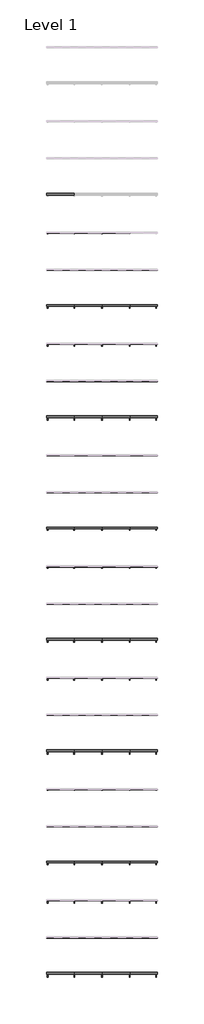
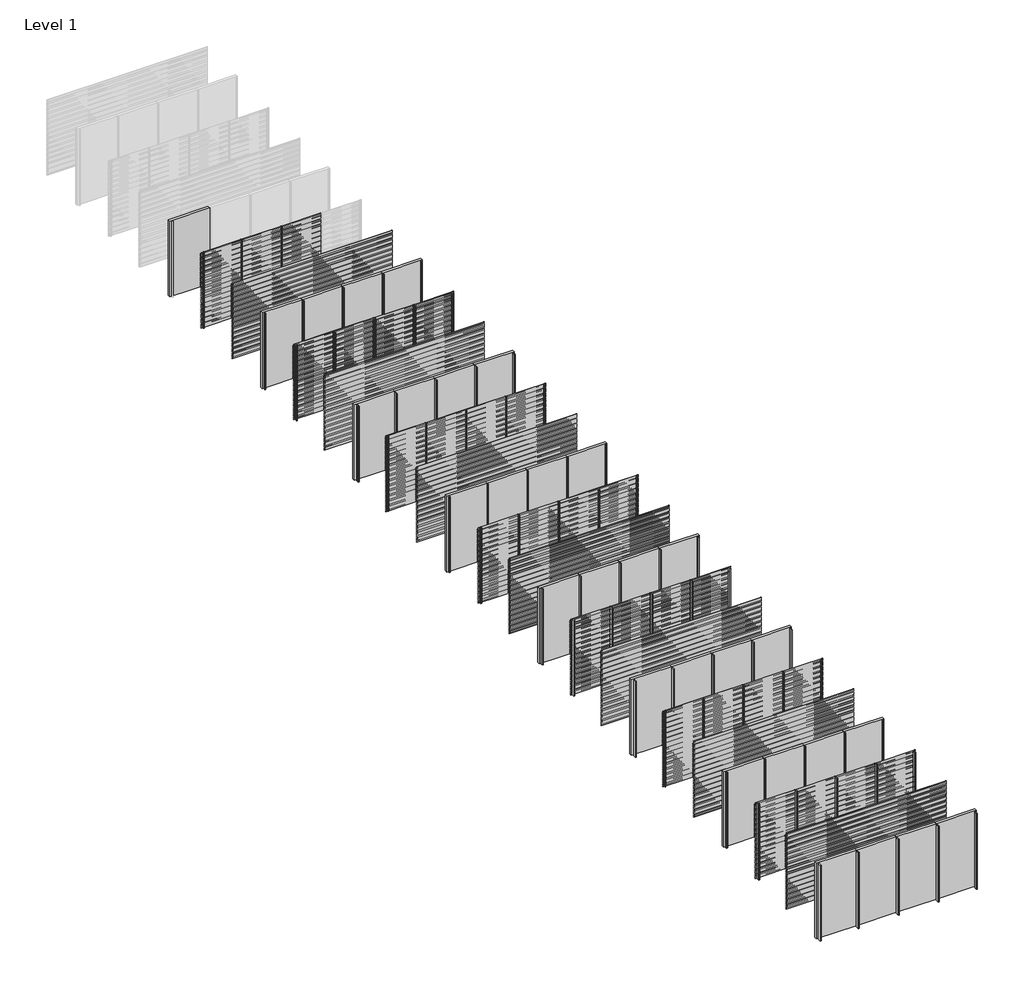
# One storey, part 1 of 25: 68 members, 63 plates.
"""IFC4 building model written with IfcOpenShell, lengths in millimetres."""

from ifc_helpers import new_model, si_unit, origin, origin_with_axes, place, context, project, spatial, polyline, outline, extrude, transform, mapped, element, save
from components import rectangular_mullion_21e3ddae, rectangular_mullion_fb497acc, rectangular_mullion_3facce28, rectangular_mullion_6cf2c509, rectangular_mullion_8b77bd57, rectangular_mullion_2c867e25, rectangular_mullion_7803f5c4, rectangular_mullion_c2c7736a, rectangular_mullion_35b0a916, rectangular_mullion_bd250e2e, rectangular_mullion_7b49c8f1, rectangular_mullion_2b84ad7e, rectangular_mullion_0fd695e7, rectangular_mullion_9b796d85, rectangular_mullion_dfb17e98, rectangular_mullion_6132f1f1, rectangular_mullion_8f153c19, rectangular_mullion_5b30f3fd, rectangular_mullion_5e0e8e0a, rectangular_mullion_d2d38772, rectangular_mullion_efb80f74, empty_system_panel_empty_413cb92e

model = new_model("IFC4")

# Units and contexts
model_context = context("Model", 3, world=origin())
ifc_project = project(units=[si_unit("LENGTHUNIT", "METRE", prefix="MILLI")], contexts=[model_context])

# Site, building, storey
site = spatial("IfcSite", under=ifc_project)
building = spatial("IfcBuilding", under=site)
storey = spatial("IfcBuildingStorey", under=building, Name="Level 1", Elevation=0.0)

# Members
placement = place(None, origin())
rectangular_mullion_shape = rectangular_mullion_21e3ddae(model_context)
element("IfcMember", 1, ObjectType="Rectangular Mullion : NLRS_21_CWM_drager LD.0460_Storax", at=placement, inside=storey, context=model_context, shape_type="MappedRepresentation", body=[
    mapped(rectangular_mullion_shape, transform((3000.0, -12000.0, 0.0), x_axis=(-1.0, 0.0, 0.0), y_axis=(0.0, 1.0, 0.0), z_axis=(0.0, 0.0, -1.0))),
])
element("IfcMember", 2, ObjectType="Rectangular Mullion : NLRS_21_CWM_drager LD.0460_Storax", at=placement, inside=storey, context=model_context, shape_type="MappedRepresentation", body=[
    mapped(rectangular_mullion_shape, transform((1500.0, -12000.0, 0.0), x_axis=(-1.0, 0.0, 0.0), y_axis=(0.0, 1.0, 0.0), z_axis=(0.0, 0.0, -1.0))),
])
element("IfcMember", 3, ObjectType="Rectangular Mullion : NLRS_21_CWM_drager LD.0460_Storax", at=placement, inside=storey, context=model_context, shape_type="MappedRepresentation", body=[
    mapped(rectangular_mullion_shape, transform((4500.0, -16000.0, 0.0), x_axis=(-1.0, 0.0, 0.0), y_axis=(0.0, 1.0, 0.0), z_axis=(0.0, 0.0, -1.0))),
])
element("IfcMember", 4, ObjectType="Rectangular Mullion : NLRS_21_CWM_drager LD.0460_Storax", at=placement, inside=storey, context=model_context, shape_type="MappedRepresentation", body=[
    mapped(rectangular_mullion_shape, transform((3000.0, -16000.0, 0.0), x_axis=(-1.0, 0.0, 0.0), y_axis=(0.0, 1.0, 0.0), z_axis=(0.0, 0.0, -1.0))),
])
element("IfcMember", 5, ObjectType="Rectangular Mullion : NLRS_21_CWM_drager LD.0460_Storax", at=placement, inside=storey, context=model_context, shape_type="MappedRepresentation", body=[
    mapped(rectangular_mullion_shape, transform((1500.0, -16000.0, 0.0), x_axis=(-1.0, 0.0, 0.0), y_axis=(0.0, 1.0, 0.0), z_axis=(0.0, 0.0, -1.0))),
])
rectangular_mullion_2_shape = rectangular_mullion_fb497acc(model_context)
element("IfcMember", 6, ObjectType="Rectangular Mullion : NLRS_21_CWM_drager LD.0995_Storax", at=placement, inside=storey, context=model_context, shape_type="MappedRepresentation", body=[
    mapped(rectangular_mullion_2_shape, transform((4500.0, -18000.0, 0.0), x_axis=(-1.0, 0.0, 0.0), y_axis=(0.0, 1.0, 0.0), z_axis=(0.0, 0.0, -1.0))),
])
element("IfcMember", 7, ObjectType="Rectangular Mullion : NLRS_21_CWM_drager LD.0995_Storax", at=placement, inside=storey, context=model_context, shape_type="MappedRepresentation", body=[
    mapped(rectangular_mullion_2_shape, transform((3000.0, -18000.0, 0.0), x_axis=(-1.0, 0.0, 0.0), y_axis=(0.0, 1.0, 0.0), z_axis=(0.0, 0.0, -1.0))),
])
element("IfcMember", 8, ObjectType="Rectangular Mullion : NLRS_21_CWM_drager LD.0995_Storax", at=placement, inside=storey, context=model_context, shape_type="MappedRepresentation", body=[
    mapped(rectangular_mullion_2_shape, transform((1500.0, -18000.0, 0.0), x_axis=(-1.0, 0.0, 0.0), y_axis=(0.0, 1.0, 0.0), z_axis=(0.0, 0.0, -1.0))),
])
element("IfcMember", 9, ObjectType="Rectangular Mullion : NLRS_21_CWM_drager LD.0995_Storax", at=placement, inside=storey, context=model_context, shape_type="MappedRepresentation", body=[
    mapped(rectangular_mullion_2_shape, transform((4500.0, -22000.0, 0.0), x_axis=(-1.0, 0.0, 0.0), y_axis=(0.0, 1.0, 0.0), z_axis=(0.0, 0.0, -1.0))),
])
element("IfcMember", 10, ObjectType="Rectangular Mullion : NLRS_21_CWM_drager LD.0995_Storax", at=placement, inside=storey, context=model_context, shape_type="MappedRepresentation", body=[
    mapped(rectangular_mullion_2_shape, transform((3000.0, -22000.0, 0.0), x_axis=(-1.0, 0.0, 0.0), y_axis=(0.0, 1.0, 0.0), z_axis=(0.0, 0.0, -1.0))),
])
element("IfcMember", 11, ObjectType="Rectangular Mullion : NLRS_21_CWM_drager LD.0995_Storax", at=placement, inside=storey, context=model_context, shape_type="MappedRepresentation", body=[
    mapped(rectangular_mullion_2_shape, transform((1500.0, -22000.0, 0.0), x_axis=(-1.0, 0.0, 0.0), y_axis=(0.0, 1.0, 0.0), z_axis=(0.0, 0.0, -1.0))),
])
rectangular_mullion_3_shape = rectangular_mullion_3facce28(model_context)
element("IfcMember", 12, ObjectType="Rectangular Mullion : NLRS_21_CWM_drager SD.014_Storax", at=placement, inside=storey, context=model_context, shape_type="MappedRepresentation", body=[
    mapped(rectangular_mullion_3_shape, transform((4500.0, -24000.0, 0.0), x_axis=(-1.0, 0.0, 0.0), y_axis=(0.0, 1.0, 0.0), z_axis=(0.0, 0.0, -1.0))),
])
element("IfcMember", 13, ObjectType="Rectangular Mullion : NLRS_21_CWM_drager SD.014_Storax", at=placement, inside=storey, context=model_context, shape_type="MappedRepresentation", body=[
    mapped(rectangular_mullion_3_shape, transform((3000.0, -24000.0, 0.0), x_axis=(-1.0, 0.0, 0.0), y_axis=(0.0, 1.0, 0.0), z_axis=(0.0, 0.0, -1.0))),
])
element("IfcMember", 14, ObjectType="Rectangular Mullion : NLRS_21_CWM_drager SD.014_Storax", at=placement, inside=storey, context=model_context, shape_type="MappedRepresentation", body=[
    mapped(rectangular_mullion_3_shape, transform((1500.0, -24000.0, 0.0), x_axis=(-1.0, 0.0, 0.0), y_axis=(0.0, 1.0, 0.0), z_axis=(0.0, 0.0, -1.0))),
])
element("IfcMember", 15, ObjectType="Rectangular Mullion : NLRS_21_CWM_drager SD.014_Storax", at=placement, inside=storey, context=model_context, shape_type="MappedRepresentation", body=[
    mapped(rectangular_mullion_3_shape, transform((4500.0, -28000.0, 0.0), x_axis=(-1.0, 0.0, 0.0), y_axis=(0.0, 1.0, 0.0), z_axis=(0.0, 0.0, -1.0))),
])
element("IfcMember", 16, ObjectType="Rectangular Mullion : NLRS_21_CWM_drager SD.014_Storax", at=placement, inside=storey, context=model_context, shape_type="MappedRepresentation", body=[
    mapped(rectangular_mullion_3_shape, transform((3000.0, -28000.0, 0.0), x_axis=(-1.0, 0.0, 0.0), y_axis=(0.0, 1.0, 0.0), z_axis=(0.0, 0.0, -1.0))),
])
element("IfcMember", 17, ObjectType="Rectangular Mullion : NLRS_21_CWM_drager SD.014_Storax", at=placement, inside=storey, context=model_context, shape_type="MappedRepresentation", body=[
    mapped(rectangular_mullion_3_shape, transform((1500.0, -28000.0, 0.0), x_axis=(-1.0, 0.0, 0.0), y_axis=(0.0, 1.0, 0.0), z_axis=(0.0, 0.0, -1.0))),
])
rectangular_mullion_4_shape = rectangular_mullion_6cf2c509(model_context)
element("IfcMember", 18, ObjectType="Rectangular Mullion : NLRS_21_CWM_drager SD.054_Storax", at=placement, inside=storey, context=model_context, shape_type="MappedRepresentation", body=[
    mapped(rectangular_mullion_4_shape, transform((4500.0, -30000.0, 0.0), x_axis=(-1.0, 0.0, 0.0), y_axis=(0.0, 1.0, 0.0), z_axis=(0.0, 0.0, -1.0))),
])
element("IfcMember", 19, ObjectType="Rectangular Mullion : NLRS_21_CWM_drager SD.054_Storax", at=placement, inside=storey, context=model_context, shape_type="MappedRepresentation", body=[
    mapped(rectangular_mullion_4_shape, transform((3000.0, -30000.0, 0.0), x_axis=(-1.0, 0.0, 0.0), y_axis=(0.0, 1.0, 0.0), z_axis=(0.0, 0.0, -1.0))),
])
element("IfcMember", 20, ObjectType="Rectangular Mullion : NLRS_21_CWM_drager SD.054_Storax", at=placement, inside=storey, context=model_context, shape_type="MappedRepresentation", body=[
    mapped(rectangular_mullion_4_shape, transform((1500.0, -30000.0, 0.0), x_axis=(-1.0, 0.0, 0.0), y_axis=(0.0, 1.0, 0.0), z_axis=(0.0, 0.0, -1.0))),
])
element("IfcMember", 21, ObjectType="Rectangular Mullion : NLRS_21_CWM_drager SD.054_Storax", at=placement, inside=storey, context=model_context, shape_type="MappedRepresentation", body=[
    mapped(rectangular_mullion_4_shape, transform((4500.0, -34000.0, 0.0), x_axis=(-1.0, 0.0, 0.0), y_axis=(0.0, 1.0, 0.0), z_axis=(0.0, 0.0, -1.0))),
])
element("IfcMember", 22, ObjectType="Rectangular Mullion : NLRS_21_CWM_drager SD.054_Storax", at=placement, inside=storey, context=model_context, shape_type="MappedRepresentation", body=[
    mapped(rectangular_mullion_4_shape, transform((3000.0, -34000.0, 0.0), x_axis=(-1.0, 0.0, 0.0), y_axis=(0.0, 1.0, 0.0), z_axis=(0.0, 0.0, -1.0))),
])
element("IfcMember", 23, ObjectType="Rectangular Mullion : NLRS_21_CWM_drager SD.054_Storax", at=placement, inside=storey, context=model_context, shape_type="MappedRepresentation", body=[
    mapped(rectangular_mullion_4_shape, transform((1500.0, -34000.0, 0.0), x_axis=(-1.0, 0.0, 0.0), y_axis=(0.0, 1.0, 0.0), z_axis=(0.0, 0.0, -1.0))),
])
rectangular_mullion_5_shape = rectangular_mullion_8b77bd57(model_context)
element("IfcMember", 24, ObjectType="Rectangular Mullion : NLRS_21_CWM_drager SD.100_Storax", at=placement, inside=storey, context=model_context, shape_type="MappedRepresentation", body=[
    mapped(rectangular_mullion_5_shape, transform((4500.0, -36000.0, 0.0), x_axis=(-1.0, 0.0, 0.0), y_axis=(0.0, 1.0, 0.0), z_axis=(0.0, 0.0, -1.0))),
])
element("IfcMember", 25, ObjectType="Rectangular Mullion : NLRS_21_CWM_drager SD.100_Storax", at=placement, inside=storey, context=model_context, shape_type="MappedRepresentation", body=[
    mapped(rectangular_mullion_5_shape, transform((3000.0, -36000.0, 0.0), x_axis=(-1.0, 0.0, 0.0), y_axis=(0.0, 1.0, 0.0), z_axis=(0.0, 0.0, -1.0))),
])
element("IfcMember", 26, ObjectType="Rectangular Mullion : NLRS_21_CWM_drager SD.100_Storax", at=placement, inside=storey, context=model_context, shape_type="MappedRepresentation", body=[
    mapped(rectangular_mullion_5_shape, transform((1500.0, -36000.0, 0.0), x_axis=(-1.0, 0.0, 0.0), y_axis=(0.0, 1.0, 0.0), z_axis=(0.0, 0.0, -1.0))),
])
element("IfcMember", 27, ObjectType="Rectangular Mullion : NLRS_21_CWM_drager SD.100_Storax", at=placement, inside=storey, context=model_context, shape_type="MappedRepresentation", body=[
    mapped(rectangular_mullion_5_shape, transform((4500.0, -40000.0, 0.0), x_axis=(-1.0, 0.0, 0.0), y_axis=(0.0, 1.0, 0.0), z_axis=(0.0, 0.0, -1.0))),
])
element("IfcMember", 28, ObjectType="Rectangular Mullion : NLRS_21_CWM_drager SD.100_Storax", at=placement, inside=storey, context=model_context, shape_type="MappedRepresentation", body=[
    mapped(rectangular_mullion_5_shape, transform((3000.0, -40000.0, 0.0), x_axis=(-1.0, 0.0, 0.0), y_axis=(0.0, 1.0, 0.0), z_axis=(0.0, 0.0, -1.0))),
])
element("IfcMember", 29, ObjectType="Rectangular Mullion : NLRS_21_CWM_drager SD.100_Storax", at=placement, inside=storey, context=model_context, shape_type="MappedRepresentation", body=[
    mapped(rectangular_mullion_5_shape, transform((1500.0, -40000.0, 0.0), x_axis=(-1.0, 0.0, 0.0), y_axis=(0.0, 1.0, 0.0), z_axis=(0.0, 0.0, -1.0))),
])
rectangular_mullion_6_shape = rectangular_mullion_2c867e25(model_context)
element("IfcMember", 30, ObjectType="Rectangular Mullion : NLRS_21_CWM_drager LD.0440_Storax", at=placement, inside=storey, context=model_context, shape_type="MappedRepresentation", body=[
    mapped(rectangular_mullion_6_shape, transform((4500.0, -42000.0, 0.0), x_axis=(-1.0, 0.0, 0.0), y_axis=(0.0, 1.0, 0.0), z_axis=(0.0, 0.0, -1.0))),
])
element("IfcMember", 31, ObjectType="Rectangular Mullion : NLRS_21_CWM_drager LD.0440_Storax", at=placement, inside=storey, context=model_context, shape_type="MappedRepresentation", body=[
    mapped(rectangular_mullion_6_shape, transform((3000.0, -42000.0, 0.0), x_axis=(-1.0, 0.0, 0.0), y_axis=(0.0, 1.0, 0.0), z_axis=(0.0, 0.0, -1.0))),
])
element("IfcMember", 32, ObjectType="Rectangular Mullion : NLRS_21_CWM_drager LD.0440_Storax", at=placement, inside=storey, context=model_context, shape_type="MappedRepresentation", body=[
    mapped(rectangular_mullion_6_shape, transform((1500.0, -42000.0, 0.0), x_axis=(-1.0, 0.0, 0.0), y_axis=(0.0, 1.0, 0.0), z_axis=(0.0, 0.0, -1.0))),
])
element("IfcMember", 33, ObjectType="Rectangular Mullion : NLRS_21_CWM_drager LD.0440_Storax", at=placement, inside=storey, context=model_context, shape_type="MappedRepresentation", body=[
    mapped(rectangular_mullion_6_shape, transform((4500.0, -46000.0, 0.0), x_axis=(-1.0, 0.0, 0.0), y_axis=(0.0, 1.0, 0.0), z_axis=(0.0, 0.0, -1.0))),
])
element("IfcMember", 34, ObjectType="Rectangular Mullion : NLRS_21_CWM_drager LD.0440_Storax", at=placement, inside=storey, context=model_context, shape_type="MappedRepresentation", body=[
    mapped(rectangular_mullion_6_shape, transform((3000.0, -46000.0, 0.0), x_axis=(-1.0, 0.0, 0.0), y_axis=(0.0, 1.0, 0.0), z_axis=(0.0, 0.0, -1.0))),
])
element("IfcMember", 35, ObjectType="Rectangular Mullion : NLRS_21_CWM_drager LD.0440_Storax", at=placement, inside=storey, context=model_context, shape_type="MappedRepresentation", body=[
    mapped(rectangular_mullion_6_shape, transform((1500.0, -46000.0, 0.0), x_axis=(-1.0, 0.0, 0.0), y_axis=(0.0, 1.0, 0.0), z_axis=(0.0, 0.0, -1.0))),
])
rectangular_mullion_7_shape = rectangular_mullion_7803f5c4(model_context)
element("IfcMember", 36, ObjectType="Rectangular Mullion : NLRS_21_CWM_drager LD.1250_Storax", at=placement, inside=storey, context=model_context, shape_type="MappedRepresentation", body=[
    mapped(rectangular_mullion_7_shape, transform((4500.0, -48000.0, 0.0), x_axis=(-1.0, 0.0, 0.0), y_axis=(0.0, 1.0, 0.0), z_axis=(0.0, 0.0, -1.0))),
])
element("IfcMember", 37, ObjectType="Rectangular Mullion : NLRS_21_CWM_drager LD.1250_Storax", at=placement, inside=storey, context=model_context, shape_type="MappedRepresentation", body=[
    mapped(rectangular_mullion_7_shape, transform((3000.0, -48000.0, 0.0), x_axis=(-1.0, 0.0, 0.0), y_axis=(0.0, 1.0, 0.0), z_axis=(0.0, 0.0, -1.0))),
])
element("IfcMember", 38, ObjectType="Rectangular Mullion : NLRS_21_CWM_drager LD.1250_Storax", at=placement, inside=storey, context=model_context, shape_type="MappedRepresentation", body=[
    mapped(rectangular_mullion_7_shape, transform((1500.0, -48000.0, 0.0), x_axis=(-1.0, 0.0, 0.0), y_axis=(0.0, 1.0, 0.0), z_axis=(0.0, 0.0, -1.0))),
])
element("IfcMember", 39, ObjectType="Rectangular Mullion : NLRS_21_CWM_drager LD.1250_Storax", at=placement, inside=storey, context=model_context, shape_type="MappedRepresentation", body=[
    mapped(rectangular_mullion_7_shape, transform((4500.0, -52000.0, 0.0), x_axis=(-1.0, 0.0, 0.0), y_axis=(0.0, 1.0, 0.0), z_axis=(0.0, 0.0, -1.0))),
])
element("IfcMember", 40, ObjectType="Rectangular Mullion : NLRS_21_CWM_drager LD.1250_Storax", at=placement, inside=storey, context=model_context, shape_type="MappedRepresentation", body=[
    mapped(rectangular_mullion_7_shape, transform((3000.0, -52000.0, 0.0), x_axis=(-1.0, 0.0, 0.0), y_axis=(0.0, 1.0, 0.0), z_axis=(0.0, 0.0, -1.0))),
])
element("IfcMember", 41, ObjectType="Rectangular Mullion : NLRS_21_CWM_drager LD.1250_Storax", at=placement, inside=storey, context=model_context, shape_type="MappedRepresentation", body=[
    mapped(rectangular_mullion_7_shape, transform((1500.0, -52000.0, 0.0), x_axis=(-1.0, 0.0, 0.0), y_axis=(0.0, 1.0, 0.0), z_axis=(0.0, 0.0, -1.0))),
])
rectangular_mullion_8_shape = rectangular_mullion_c2c7736a(model_context)
element("IfcMember", 42, ObjectType="Rectangular Mullion : NLRS_21_CWM_drager LD.0460 - links_Storax", at=placement, inside=storey, context=model_context, shape_type="MappedRepresentation", body=[
    mapped(rectangular_mullion_8_shape, transform((0.0, -12000.0, 0.0), x_axis=(-1.0, 0.0, 0.0), y_axis=(0.0, 1.0, 0.0), z_axis=(0.0, 0.0, -1.0))),
])
element("IfcMember", 43, ObjectType="Rectangular Mullion : NLRS_21_CWM_drager LD.0460 - links_Storax", at=placement, inside=storey, context=model_context, shape_type="MappedRepresentation", body=[
    mapped(rectangular_mullion_8_shape, transform((0.0, -16000.0, 0.0), x_axis=(-1.0, 0.0, 0.0), y_axis=(0.0, 1.0, 0.0), z_axis=(0.0, 0.0, -1.0))),
])
rectangular_mullion_9_shape = rectangular_mullion_35b0a916(model_context)
element("IfcMember", 44, ObjectType="Rectangular Mullion : NLRS_21_CWM_drager LD.0460 - rechts_Storax", at=placement, inside=storey, context=model_context, shape_type="MappedRepresentation", body=[
    mapped(rectangular_mullion_9_shape, transform((6000.0, -16000.0, 3000.0), x_axis=(1.0, 0.0, 0.0), y_axis=(0.0, 1.0, 0.0), z_axis=(0.0, 0.0, 1.0))),
])
rectangular_mullion_10_shape = rectangular_mullion_bd250e2e(model_context)
element("IfcMember", 45, ObjectType="Rectangular Mullion : NLRS_21_CWM_drager LD.0995 - links_Storax", at=placement, inside=storey, context=model_context, shape_type="MappedRepresentation", body=[
    mapped(rectangular_mullion_10_shape, transform((0.0, -18000.0, 0.0), x_axis=(-1.0, 0.0, 0.0), y_axis=(0.0, 1.0, 0.0), z_axis=(0.0, 0.0, -1.0))),
])
element("IfcMember", 46, ObjectType="Rectangular Mullion : NLRS_21_CWM_drager LD.0995 - links_Storax", at=placement, inside=storey, context=model_context, shape_type="MappedRepresentation", body=[
    mapped(rectangular_mullion_10_shape, transform((0.0, -22000.0, 0.0), x_axis=(-1.0, 0.0, 0.0), y_axis=(0.0, 1.0, 0.0), z_axis=(0.0, 0.0, -1.0))),
])
rectangular_mullion_11_shape = rectangular_mullion_7b49c8f1(model_context)
element("IfcMember", 47, ObjectType="Rectangular Mullion : NLRS_21_CWM_drager LD.0995 - rechts_Storax", at=placement, inside=storey, context=model_context, shape_type="MappedRepresentation", body=[
    mapped(rectangular_mullion_11_shape, transform((6000.0, -18000.0, 3000.0), x_axis=(1.0, 0.0, 0.0), y_axis=(0.0, 1.0, 0.0), z_axis=(0.0, 0.0, 1.0))),
])
element("IfcMember", 48, ObjectType="Rectangular Mullion : NLRS_21_CWM_drager LD.0995 - rechts_Storax", at=placement, inside=storey, context=model_context, shape_type="MappedRepresentation", body=[
    mapped(rectangular_mullion_11_shape, transform((6000.0, -22000.0, 3000.0), x_axis=(1.0, 0.0, 0.0), y_axis=(0.0, 1.0, 0.0), z_axis=(0.0, 0.0, 1.0))),
])
rectangular_mullion_12_shape = rectangular_mullion_2b84ad7e(model_context)
element("IfcMember", 49, ObjectType="Rectangular Mullion : NLRS_21_CWM_drager SD.014 - links_Storax", at=placement, inside=storey, context=model_context, shape_type="MappedRepresentation", body=[
    mapped(rectangular_mullion_12_shape, transform((0.0, -24000.0, 0.0), x_axis=(-1.0, 0.0, 0.0), y_axis=(0.0, 1.0, 0.0), z_axis=(0.0, 0.0, -1.0))),
])
element("IfcMember", 50, ObjectType="Rectangular Mullion : NLRS_21_CWM_drager SD.014 - links_Storax", at=placement, inside=storey, context=model_context, shape_type="MappedRepresentation", body=[
    mapped(rectangular_mullion_12_shape, transform((0.0, -28000.0, 0.0), x_axis=(-1.0, 0.0, 0.0), y_axis=(0.0, 1.0, 0.0), z_axis=(0.0, 0.0, -1.0))),
])
rectangular_mullion_13_shape = rectangular_mullion_0fd695e7(model_context)
element("IfcMember", 51, ObjectType="Rectangular Mullion : NLRS_21_CWM_drager SD.014 - rechts_Storax", at=placement, inside=storey, context=model_context, shape_type="MappedRepresentation", body=[
    mapped(rectangular_mullion_13_shape, transform((6000.0, -24000.0, 3000.0), x_axis=(1.0, 0.0, 0.0), y_axis=(0.0, 1.0, 0.0), z_axis=(0.0, 0.0, 1.0))),
])
element("IfcMember", 52, ObjectType="Rectangular Mullion : NLRS_21_CWM_drager SD.014 - rechts_Storax", at=placement, inside=storey, context=model_context, shape_type="MappedRepresentation", body=[
    mapped(rectangular_mullion_13_shape, transform((6000.0, -28000.0, 3000.0), x_axis=(1.0, 0.0, 0.0), y_axis=(0.0, 1.0, 0.0), z_axis=(0.0, 0.0, 1.0))),
])
rectangular_mullion_14_shape = rectangular_mullion_9b796d85(model_context)
element("IfcMember", 53, ObjectType="Rectangular Mullion : NLRS_21_CWM_drager SD.054 - links_Storax", at=placement, inside=storey, context=model_context, shape_type="MappedRepresentation", body=[
    mapped(rectangular_mullion_14_shape, transform((0.0, -30000.0, 0.0), x_axis=(-1.0, 0.0, 0.0), y_axis=(0.0, 1.0, 0.0), z_axis=(0.0, 0.0, -1.0))),
])
element("IfcMember", 54, ObjectType="Rectangular Mullion : NLRS_21_CWM_drager SD.054 - links_Storax", at=placement, inside=storey, context=model_context, shape_type="MappedRepresentation", body=[
    mapped(rectangular_mullion_14_shape, transform((0.0, -34000.0, 0.0), x_axis=(-1.0, 0.0, 0.0), y_axis=(0.0, 1.0, 0.0), z_axis=(0.0, 0.0, -1.0))),
])
rectangular_mullion_15_shape = rectangular_mullion_dfb17e98(model_context)
element("IfcMember", 55, ObjectType="Rectangular Mullion : NLRS_21_CWM_drager SD.054 - rechts_Storax", at=placement, inside=storey, context=model_context, shape_type="MappedRepresentation", body=[
    mapped(rectangular_mullion_15_shape, transform((6000.0, -30000.0, 3000.0), x_axis=(1.0, 0.0, 0.0), y_axis=(0.0, 1.0, 0.0), z_axis=(0.0, 0.0, 1.0))),
])
element("IfcMember", 56, ObjectType="Rectangular Mullion : NLRS_21_CWM_drager SD.054 - rechts_Storax", at=placement, inside=storey, context=model_context, shape_type="MappedRepresentation", body=[
    mapped(rectangular_mullion_15_shape, transform((6000.0, -34000.0, 3000.0), x_axis=(1.0, 0.0, 0.0), y_axis=(0.0, 1.0, 0.0), z_axis=(0.0, 0.0, 1.0))),
])
rectangular_mullion_16_shape = rectangular_mullion_6132f1f1(model_context)
element("IfcMember", 57, ObjectType="Rectangular Mullion : NLRS_21_CWM_drager SD.100 - links_Storax", at=placement, inside=storey, context=model_context, shape_type="MappedRepresentation", body=[
    mapped(rectangular_mullion_16_shape, transform((0.0, -36000.0, 0.0), x_axis=(-1.0, 0.0, 0.0), y_axis=(0.0, 1.0, 0.0), z_axis=(0.0, 0.0, -1.0))),
])
element("IfcMember", 58, ObjectType="Rectangular Mullion : NLRS_21_CWM_drager SD.100 - links_Storax", at=placement, inside=storey, context=model_context, shape_type="MappedRepresentation", body=[
    mapped(rectangular_mullion_16_shape, transform((0.0, -40000.0, 0.0), x_axis=(-1.0, 0.0, 0.0), y_axis=(0.0, 1.0, 0.0), z_axis=(0.0, 0.0, -1.0))),
])
rectangular_mullion_17_shape = rectangular_mullion_8f153c19(model_context)
element("IfcMember", 59, ObjectType="Rectangular Mullion : NLRS_21_CWM_drager SD.100 - rechts_Storax", at=placement, inside=storey, context=model_context, shape_type="MappedRepresentation", body=[
    mapped(rectangular_mullion_17_shape, transform((6000.0, -36000.0, 3000.0), x_axis=(1.0, 0.0, 0.0), y_axis=(0.0, 1.0, 0.0), z_axis=(0.0, 0.0, 1.0))),
])
element("IfcMember", 60, ObjectType="Rectangular Mullion : NLRS_21_CWM_drager SD.100 - rechts_Storax", at=placement, inside=storey, context=model_context, shape_type="MappedRepresentation", body=[
    mapped(rectangular_mullion_17_shape, transform((6000.0, -40000.0, 3000.0), x_axis=(1.0, 0.0, 0.0), y_axis=(0.0, 1.0, 0.0), z_axis=(0.0, 0.0, 1.0))),
])
rectangular_mullion_18_shape = rectangular_mullion_5b30f3fd(model_context)
element("IfcMember", 61, ObjectType="Rectangular Mullion : NLRS_21_CWM_drager LD.0440 - links_Storax", at=placement, inside=storey, context=model_context, shape_type="MappedRepresentation", body=[
    mapped(rectangular_mullion_18_shape, transform((0.0, -42000.0, 0.0), x_axis=(-1.0, 0.0, 0.0), y_axis=(0.0, 1.0, 0.0), z_axis=(0.0, 0.0, -1.0))),
])
element("IfcMember", 62, ObjectType="Rectangular Mullion : NLRS_21_CWM_drager LD.0440 - links_Storax", at=placement, inside=storey, context=model_context, shape_type="MappedRepresentation", body=[
    mapped(rectangular_mullion_18_shape, transform((0.0, -46000.0, 0.0), x_axis=(-1.0, 0.0, 0.0), y_axis=(0.0, 1.0, 0.0), z_axis=(0.0, 0.0, -1.0))),
])
rectangular_mullion_19_shape = rectangular_mullion_5e0e8e0a(model_context)
element("IfcMember", 63, ObjectType="Rectangular Mullion : NLRS_21_CWM_drager LD.0440 - rechts_Storax", at=placement, inside=storey, context=model_context, shape_type="MappedRepresentation", body=[
    mapped(rectangular_mullion_19_shape, transform((6000.0, -42000.0, 3000.0), x_axis=(1.0, 0.0, 0.0), y_axis=(0.0, 1.0, 0.0), z_axis=(0.0, 0.0, 1.0))),
])
element("IfcMember", 64, ObjectType="Rectangular Mullion : NLRS_21_CWM_drager LD.0440 - rechts_Storax", at=placement, inside=storey, context=model_context, shape_type="MappedRepresentation", body=[
    mapped(rectangular_mullion_19_shape, transform((6000.0, -46000.0, 3000.0), x_axis=(1.0, 0.0, 0.0), y_axis=(0.0, 1.0, 0.0), z_axis=(0.0, 0.0, 1.0))),
])
rectangular_mullion_20_shape = rectangular_mullion_d2d38772(model_context)
element("IfcMember", 65, ObjectType="Rectangular Mullion : NLRS_21_CWM_drager LD.1250 - links_Storax", at=placement, inside=storey, context=model_context, shape_type="MappedRepresentation", body=[
    mapped(rectangular_mullion_20_shape, transform((0.0, -48000.0, 0.0), x_axis=(-1.0, 0.0, 0.0), y_axis=(0.0, 1.0, 0.0), z_axis=(0.0, 0.0, -1.0))),
])
element("IfcMember", 66, ObjectType="Rectangular Mullion : NLRS_21_CWM_drager LD.1250 - links_Storax", at=placement, inside=storey, context=model_context, shape_type="MappedRepresentation", body=[
    mapped(rectangular_mullion_20_shape, transform((0.0, -52000.0, 0.0), x_axis=(-1.0, 0.0, 0.0), y_axis=(0.0, 1.0, 0.0), z_axis=(0.0, 0.0, -1.0))),
])
rectangular_mullion_21_shape = rectangular_mullion_efb80f74(model_context)
element("IfcMember", 67, ObjectType="Rectangular Mullion : NLRS_21_CWM_drager LD.1250 - rechts_Storax", at=placement, inside=storey, context=model_context, shape_type="MappedRepresentation", body=[
    mapped(rectangular_mullion_21_shape, transform((6000.0, -48000.0, 3000.0), x_axis=(1.0, 0.0, 0.0), y_axis=(0.0, 1.0, 0.0), z_axis=(0.0, 0.0, 1.0))),
])
element("IfcMember", 68, ObjectType="Rectangular Mullion : NLRS_21_CWM_drager LD.1250 - rechts_Storax", at=placement, inside=storey, context=model_context, shape_type="MappedRepresentation", body=[
    mapped(rectangular_mullion_21_shape, transform((6000.0, -52000.0, 3000.0), x_axis=(1.0, 0.0, 0.0), y_axis=(0.0, 1.0, 0.0), z_axis=(0.0, 0.0, 1.0))),
])

# Plates
element("IfcPlate", 69, ObjectType="NLRS_21_WA_lamellenwand Linius - L.066.01_Storax", at=placement, inside=storey, context=model_context, shape_type="SweptSolid", body=[
    extrude(outline(polyline([(0.0, -11999.0), (1500.0, -11999.0), (1500.0, -12001.0), (0.0, -12001.0), (0.0, -11999.0)])), origin_with_axes(), (0.0, 0.0, 1.0), 3000.0),
])
element("IfcPlate", 70, ObjectType="NLRS_21_WA_lamellenwand Linius - L.066.01_Storax", at=placement, inside=storey, context=model_context, shape_type="SweptSolid", body=[
    extrude(outline(polyline([(1500.0, -11999.0), (3000.0, -11999.0), (3000.0, -12001.0), (1500.0, -12001.0), (1500.0, -11999.0)])), origin_with_axes(), (0.0, 0.0, 1.0), 3000.0),
])
element("IfcPlate", 71, ObjectType="NLRS_21_WA_lamellenwand Linius - L.066.01_Storax", at=placement, inside=storey, context=model_context, shape_type="SweptSolid", body=[
    extrude(outline(polyline([(3000.0, -11999.0), (4500.0, -11999.0), (4500.0, -12001.0), (3000.0, -12001.0), (3000.0, -11999.0)])), origin_with_axes(), (0.0, 0.0, 1.0), 3000.0),
])
element("IfcPlate", 72, ObjectType="NLRS_21_WA_lamellenwand Linius - L.066.01_Storax", at=placement, inside=storey, context=model_context, shape_type="SweptSolid", body=[
    extrude(outline(polyline([(0.0, -13999.0), (6000.0, -13999.0), (6000.0, -14001.0), (0.0, -14001.0), (0.0, -13999.0)])), origin_with_axes(), (0.0, 0.0, 1.0), 3000.0),
])
element("IfcPlate", 73, ObjectType="NLRS_21_WA_lamellenwand Linius - L.066.01_Storax", at=placement, inside=storey, context=model_context, shape_type="SweptSolid", body=[
    extrude(outline(polyline([(0.0, -17999.0), (1500.0, -17999.0), (1500.0, -18001.0), (0.0, -18001.0), (0.0, -17999.0)])), origin_with_axes(), (0.0, 0.0, 1.0), 3000.0),
])
element("IfcPlate", 74, ObjectType="NLRS_21_WA_lamellenwand Linius - L.066.01_Storax", at=placement, inside=storey, context=model_context, shape_type="SweptSolid", body=[
    extrude(outline(polyline([(1500.0, -17999.0), (3000.0, -17999.0), (3000.0, -18001.0), (1500.0, -18001.0), (1500.0, -17999.0)])), origin_with_axes(), (0.0, 0.0, 1.0), 3000.0),
])
element("IfcPlate", 75, ObjectType="NLRS_21_WA_lamellenwand Linius - L.066.01_Storax", at=placement, inside=storey, context=model_context, shape_type="SweptSolid", body=[
    extrude(outline(polyline([(3000.0, -17999.0), (4500.0, -17999.0), (4500.0, -18001.0), (3000.0, -18001.0), (3000.0, -17999.0)])), origin_with_axes(), (0.0, 0.0, 1.0), 3000.0),
])
element("IfcPlate", 76, ObjectType="NLRS_21_WA_lamellenwand Linius - L.066.01_Storax", at=placement, inside=storey, context=model_context, shape_type="SweptSolid", body=[
    extrude(outline(polyline([(4500.0, -17999.0), (6000.0, -17999.0), (6000.0, -18001.0), (4500.0, -18001.0), (4500.0, -17999.0)])), origin_with_axes(), (0.0, 0.0, 1.0), 3000.0),
])
element("IfcPlate", 77, ObjectType="NLRS_21_WA_lamellenwand Linius - L.066.01_Storax", at=placement, inside=storey, context=model_context, shape_type="SweptSolid", body=[
    extrude(outline(polyline([(0.0, -19999.0), (6000.0, -19999.0), (6000.0, -20001.0), (0.0, -20001.0), (0.0, -19999.0)])), origin_with_axes(), (0.0, 0.0, 1.0), 3000.0),
])
element("IfcPlate", 78, ObjectType="NLRS_21_WA_lamellenwand Linius - L.066.01_Storax", at=placement, inside=storey, context=model_context, shape_type="SweptSolid", body=[
    extrude(outline(polyline([(0.0, -23999.0), (1500.0, -23999.0), (1500.0, -24001.0), (0.0, -24001.0), (0.0, -23999.0)])), origin_with_axes(), (0.0, 0.0, 1.0), 3000.0),
])
element("IfcPlate", 79, ObjectType="NLRS_21_WA_lamellenwand Linius - L.066.01_Storax", at=placement, inside=storey, context=model_context, shape_type="SweptSolid", body=[
    extrude(outline(polyline([(1500.0, -23999.0), (3000.0, -23999.0), (3000.0, -24001.0), (1500.0, -24001.0), (1500.0, -23999.0)])), origin_with_axes(), (0.0, 0.0, 1.0), 3000.0),
])
element("IfcPlate", 80, ObjectType="NLRS_21_WA_lamellenwand Linius - L.066.01_Storax", at=placement, inside=storey, context=model_context, shape_type="SweptSolid", body=[
    extrude(outline(polyline([(3000.0, -23999.0), (4500.0, -23999.0), (4500.0, -24001.0), (3000.0, -24001.0), (3000.0, -23999.0)])), origin_with_axes(), (0.0, 0.0, 1.0), 3000.0),
])
element("IfcPlate", 81, ObjectType="NLRS_21_WA_lamellenwand Linius - L.066.01_Storax", at=placement, inside=storey, context=model_context, shape_type="SweptSolid", body=[
    extrude(outline(polyline([(4500.0, -23999.0), (6000.0, -23999.0), (6000.0, -24001.0), (4500.0, -24001.0), (4500.0, -23999.0)])), origin_with_axes(), (0.0, 0.0, 1.0), 3000.0),
])
element("IfcPlate", 82, ObjectType="NLRS_21_WA_lamellenwand Linius - L.066.01_Storax", at=placement, inside=storey, context=model_context, shape_type="SweptSolid", body=[
    extrude(outline(polyline([(0.0, -25999.0), (6000.0, -25999.0), (6000.0, -26001.0), (0.0, -26001.0), (0.0, -25999.0)])), origin_with_axes(), (0.0, 0.0, 1.0), 3000.0),
])
element("IfcPlate", 83, ObjectType="NLRS_21_WA_lamellenwand Linius - L.066.01_Storax", at=placement, inside=storey, context=model_context, shape_type="SweptSolid", body=[
    extrude(outline(polyline([(0.0, -29999.0), (1500.0, -29999.0), (1500.0, -30001.0), (0.0, -30001.0), (0.0, -29999.0)])), origin_with_axes(), (0.0, 0.0, 1.0), 3000.0),
])
element("IfcPlate", 84, ObjectType="NLRS_21_WA_lamellenwand Linius - L.066.01_Storax", at=placement, inside=storey, context=model_context, shape_type="SweptSolid", body=[
    extrude(outline(polyline([(1500.0, -29999.0), (3000.0, -29999.0), (3000.0, -30001.0), (1500.0, -30001.0), (1500.0, -29999.0)])), origin_with_axes(), (0.0, 0.0, 1.0), 3000.0),
])
element("IfcPlate", 85, ObjectType="NLRS_21_WA_lamellenwand Linius - L.066.01_Storax", at=placement, inside=storey, context=model_context, shape_type="SweptSolid", body=[
    extrude(outline(polyline([(3000.0, -29999.0), (4500.0, -29999.0), (4500.0, -30001.0), (3000.0, -30001.0), (3000.0, -29999.0)])), origin_with_axes(), (0.0, 0.0, 1.0), 3000.0),
])
element("IfcPlate", 86, ObjectType="NLRS_21_WA_lamellenwand Linius - L.066.01_Storax", at=placement, inside=storey, context=model_context, shape_type="SweptSolid", body=[
    extrude(outline(polyline([(4500.0, -29999.0), (6000.0, -29999.0), (6000.0, -30001.0), (4500.0, -30001.0), (4500.0, -29999.0)])), origin_with_axes(), (0.0, 0.0, 1.0), 3000.0),
])
element("IfcPlate", 87, ObjectType="NLRS_21_WA_lamellenwand Linius - L.066.01_Storax", at=placement, inside=storey, context=model_context, shape_type="SweptSolid", body=[
    extrude(outline(polyline([(0.0, -31999.0), (6000.0, -31999.0), (6000.0, -32001.0), (0.0, -32001.0), (0.0, -31999.0)])), origin_with_axes(), (0.0, 0.0, 1.0), 3000.0),
])
element("IfcPlate", 88, ObjectType="NLRS_21_WA_lamellenwand Linius - L.066.01_Storax", at=placement, inside=storey, context=model_context, shape_type="SweptSolid", body=[
    extrude(outline(polyline([(0.0, -35999.0), (1500.0, -35999.0), (1500.0, -36001.0), (0.0, -36001.0), (0.0, -35999.0)])), origin_with_axes(), (0.0, 0.0, 1.0), 3000.0),
])
element("IfcPlate", 89, ObjectType="NLRS_21_WA_lamellenwand Linius - L.066.01_Storax", at=placement, inside=storey, context=model_context, shape_type="SweptSolid", body=[
    extrude(outline(polyline([(1500.0, -35999.0), (3000.0, -35999.0), (3000.0, -36001.0), (1500.0, -36001.0), (1500.0, -35999.0)])), origin_with_axes(), (0.0, 0.0, 1.0), 3000.0),
])
element("IfcPlate", 90, ObjectType="NLRS_21_WA_lamellenwand Linius - L.066.01_Storax", at=placement, inside=storey, context=model_context, shape_type="SweptSolid", body=[
    extrude(outline(polyline([(3000.0, -35999.0), (4500.0, -35999.0), (4500.0, -36001.0), (3000.0, -36001.0), (3000.0, -35999.0)])), origin_with_axes(), (0.0, 0.0, 1.0), 3000.0),
])
element("IfcPlate", 91, ObjectType="NLRS_21_WA_lamellenwand Linius - L.066.01_Storax", at=placement, inside=storey, context=model_context, shape_type="SweptSolid", body=[
    extrude(outline(polyline([(4500.0, -35999.0), (6000.0, -35999.0), (6000.0, -36001.0), (4500.0, -36001.0), (4500.0, -35999.0)])), origin_with_axes(), (0.0, 0.0, 1.0), 3000.0),
])
element("IfcPlate", 92, ObjectType="NLRS_21_WA_lamellenwand Linius - L.066.01_Storax", at=placement, inside=storey, context=model_context, shape_type="SweptSolid", body=[
    extrude(outline(polyline([(0.0, -37999.0), (6000.0, -37999.0), (6000.0, -38001.0), (0.0, -38001.0), (0.0, -37999.0)])), origin_with_axes(), (0.0, 0.0, 1.0), 3000.0),
])
element("IfcPlate", 93, ObjectType="NLRS_21_WA_lamellenwand Linius - L.066.01_Storax", at=placement, inside=storey, context=model_context, shape_type="SweptSolid", body=[
    extrude(outline(polyline([(0.0, -41999.0), (1500.0, -41999.0), (1500.0, -42001.0), (0.0, -42001.0), (0.0, -41999.0)])), origin_with_axes(), (0.0, 0.0, 1.0), 3000.0),
])
element("IfcPlate", 94, ObjectType="NLRS_21_WA_lamellenwand Linius - L.066.01_Storax", at=placement, inside=storey, context=model_context, shape_type="SweptSolid", body=[
    extrude(outline(polyline([(1500.0, -41999.0), (3000.0, -41999.0), (3000.0, -42001.0), (1500.0, -42001.0), (1500.0, -41999.0)])), origin_with_axes(), (0.0, 0.0, 1.0), 3000.0),
])
element("IfcPlate", 95, ObjectType="NLRS_21_WA_lamellenwand Linius - L.066.01_Storax", at=placement, inside=storey, context=model_context, shape_type="SweptSolid", body=[
    extrude(outline(polyline([(3000.0, -41999.0), (4500.0, -41999.0), (4500.0, -42001.0), (3000.0, -42001.0), (3000.0, -41999.0)])), origin_with_axes(), (0.0, 0.0, 1.0), 3000.0),
])
element("IfcPlate", 96, ObjectType="NLRS_21_WA_lamellenwand Linius - L.066.01_Storax", at=placement, inside=storey, context=model_context, shape_type="SweptSolid", body=[
    extrude(outline(polyline([(4500.0, -41999.0), (6000.0, -41999.0), (6000.0, -42001.0), (4500.0, -42001.0), (4500.0, -41999.0)])), origin_with_axes(), (0.0, 0.0, 1.0), 3000.0),
])
element("IfcPlate", 97, ObjectType="NLRS_21_WA_lamellenwand Linius - L.066.01_Storax", at=placement, inside=storey, context=model_context, shape_type="SweptSolid", body=[
    extrude(outline(polyline([(0.0, -43999.0), (6000.0, -43999.0), (6000.0, -44001.0), (0.0, -44001.0), (0.0, -43999.0)])), origin_with_axes(), (0.0, 0.0, 1.0), 3000.0),
])
element("IfcPlate", 98, ObjectType="NLRS_21_WA_lamellenwand Linius - L.066.01_Storax", at=placement, inside=storey, context=model_context, shape_type="SweptSolid", body=[
    extrude(outline(polyline([(0.0, -47999.0), (1500.0, -47999.0), (1500.0, -48001.0), (0.0, -48001.0), (0.0, -47999.0)])), origin_with_axes(), (0.0, 0.0, 1.0), 3000.0),
])
element("IfcPlate", 99, ObjectType="NLRS_21_WA_lamellenwand Linius - L.066.01_Storax", at=placement, inside=storey, context=model_context, shape_type="SweptSolid", body=[
    extrude(outline(polyline([(1500.0, -47999.0), (3000.0, -47999.0), (3000.0, -48001.0), (1500.0, -48001.0), (1500.0, -47999.0)])), origin_with_axes(), (0.0, 0.0, 1.0), 3000.0),
])
element("IfcPlate", 100, ObjectType="NLRS_21_WA_lamellenwand Linius - L.066.01_Storax", at=placement, inside=storey, context=model_context, shape_type="SweptSolid", body=[
    extrude(outline(polyline([(3000.0, -47999.0), (4500.0, -47999.0), (4500.0, -48001.0), (3000.0, -48001.0), (3000.0, -47999.0)])), origin_with_axes(), (0.0, 0.0, 1.0), 3000.0),
])
element("IfcPlate", 101, ObjectType="NLRS_21_WA_lamellenwand Linius - L.066.01_Storax", at=placement, inside=storey, context=model_context, shape_type="SweptSolid", body=[
    extrude(outline(polyline([(4500.0, -47999.0), (6000.0, -47999.0), (6000.0, -48001.0), (4500.0, -48001.0), (4500.0, -47999.0)])), origin_with_axes(), (0.0, 0.0, 1.0), 3000.0),
])
element("IfcPlate", 102, ObjectType="NLRS_21_WA_lamellenwand Linius - L.066.01_Storax", at=placement, inside=storey, context=model_context, shape_type="SweptSolid", body=[
    extrude(outline(polyline([(0.0, -49999.0), (6000.0, -49999.0), (6000.0, -50001.0), (0.0, -50001.0), (0.0, -49999.0)])), origin_with_axes(), (0.0, 0.0, 1.0), 3000.0),
])
empty_system_panel_empty_shape = empty_system_panel_empty_413cb92e(model_context)
element("IfcPlate", 103, ObjectType="Empty System Panel : Empty", at=placement, inside=storey, context=model_context, shape_type="MappedRepresentation", body=[
    mapped(empty_system_panel_empty_shape, transform((5250.0, -16000.0, 0.0), x_axis=(-1.0, 0.0, 0.0), y_axis=(0.0, -1.0, 0.0), z_axis=(0.0, 0.0, 1.0))),
])
element("IfcPlate", 104, ObjectType="Empty System Panel : Empty", at=placement, inside=storey, context=model_context, shape_type="MappedRepresentation", body=[
    mapped(empty_system_panel_empty_shape, transform((5250.0, -22000.0, 0.0), x_axis=(-1.0, 0.0, 0.0), y_axis=(0.0, -1.0, 0.0), z_axis=(0.0, 0.0, 1.0))),
])
element("IfcPlate", 105, ObjectType="Empty System Panel : Empty", at=placement, inside=storey, context=model_context, shape_type="MappedRepresentation", body=[
    mapped(empty_system_panel_empty_shape, transform((5250.0, -28000.0, 0.0), x_axis=(-1.0, 0.0, 0.0), y_axis=(0.0, -1.0, 0.0), z_axis=(0.0, 0.0, 1.0))),
])
element("IfcPlate", 106, ObjectType="Empty System Panel : Empty", at=placement, inside=storey, context=model_context, shape_type="MappedRepresentation", body=[
    mapped(empty_system_panel_empty_shape, transform((5250.0, -34000.0, 0.0), x_axis=(-1.0, 0.0, 0.0), y_axis=(0.0, -1.0, 0.0), z_axis=(0.0, 0.0, 1.0))),
])
element("IfcPlate", 107, ObjectType="Empty System Panel : Empty", at=placement, inside=storey, context=model_context, shape_type="MappedRepresentation", body=[
    mapped(empty_system_panel_empty_shape, transform((5250.0, -40000.0, 0.0), x_axis=(-1.0, 0.0, 0.0), y_axis=(0.0, -1.0, 0.0), z_axis=(0.0, 0.0, 1.0))),
])
element("IfcPlate", 108, ObjectType="Empty System Panel : Empty", at=placement, inside=storey, context=model_context, shape_type="MappedRepresentation", body=[
    mapped(empty_system_panel_empty_shape, transform((5250.0, -46000.0, 0.0), x_axis=(-1.0, 0.0, 0.0), y_axis=(0.0, -1.0, 0.0), z_axis=(0.0, 0.0, 1.0))),
])
element("IfcPlate", 109, ObjectType="Empty System Panel : Empty", at=placement, inside=storey, context=model_context, shape_type="MappedRepresentation", body=[
    mapped(empty_system_panel_empty_shape, transform((5250.0, -52000.0, 0.0), x_axis=(-1.0, 0.0, 0.0), y_axis=(0.0, -1.0, 0.0), z_axis=(0.0, 0.0, 1.0))),
])
element("IfcPlate", 110, ObjectType="Empty System Panel : Empty", at=placement, inside=storey, context=model_context, shape_type="MappedRepresentation", body=[
    mapped(empty_system_panel_empty_shape, transform((750.0, -10000.0, 0.0), x_axis=(-1.0, 0.0, 0.0), y_axis=(0.0, -1.0, 0.0), z_axis=(0.0, 0.0, 1.0))),
])
element("IfcPlate", 111, ObjectType="Empty System Panel : Empty", at=placement, inside=storey, context=model_context, shape_type="MappedRepresentation", body=[
    mapped(empty_system_panel_empty_shape, transform((3750.0, -16000.0, 0.0), x_axis=(-1.0, 0.0, 0.0), y_axis=(0.0, -1.0, 0.0), z_axis=(0.0, 0.0, 1.0))),
])
element("IfcPlate", 112, ObjectType="Empty System Panel : Empty", at=placement, inside=storey, context=model_context, shape_type="MappedRepresentation", body=[
    mapped(empty_system_panel_empty_shape, transform((2250.0, -16000.0, 0.0), x_axis=(-1.0, 0.0, 0.0), y_axis=(0.0, -1.0, 0.0), z_axis=(0.0, 0.0, 1.0))),
])
element("IfcPlate", 113, ObjectType="Empty System Panel : Empty", at=placement, inside=storey, context=model_context, shape_type="MappedRepresentation", body=[
    mapped(empty_system_panel_empty_shape, transform((750.0, -16000.0, 0.0), x_axis=(-1.0, 0.0, 0.0), y_axis=(0.0, -1.0, 0.0), z_axis=(0.0, 0.0, 1.0))),
])
element("IfcPlate", 114, ObjectType="Empty System Panel : Empty", at=placement, inside=storey, context=model_context, shape_type="MappedRepresentation", body=[
    mapped(empty_system_panel_empty_shape, transform((3750.0, -22000.0, 0.0), x_axis=(-1.0, 0.0, 0.0), y_axis=(0.0, -1.0, 0.0), z_axis=(0.0, 0.0, 1.0))),
])
element("IfcPlate", 115, ObjectType="Empty System Panel : Empty", at=placement, inside=storey, context=model_context, shape_type="MappedRepresentation", body=[
    mapped(empty_system_panel_empty_shape, transform((2250.0, -22000.0, 0.0), x_axis=(-1.0, 0.0, 0.0), y_axis=(0.0, -1.0, 0.0), z_axis=(0.0, 0.0, 1.0))),
])
element("IfcPlate", 116, ObjectType="Empty System Panel : Empty", at=placement, inside=storey, context=model_context, shape_type="MappedRepresentation", body=[
    mapped(empty_system_panel_empty_shape, transform((750.0, -22000.0, 0.0), x_axis=(-1.0, 0.0, 0.0), y_axis=(0.0, -1.0, 0.0), z_axis=(0.0, 0.0, 1.0))),
])
element("IfcPlate", 117, ObjectType="Empty System Panel : Empty", at=placement, inside=storey, context=model_context, shape_type="MappedRepresentation", body=[
    mapped(empty_system_panel_empty_shape, transform((3750.0, -28000.0, 0.0), x_axis=(-1.0, 0.0, 0.0), y_axis=(0.0, -1.0, 0.0), z_axis=(0.0, 0.0, 1.0))),
])
element("IfcPlate", 118, ObjectType="Empty System Panel : Empty", at=placement, inside=storey, context=model_context, shape_type="MappedRepresentation", body=[
    mapped(empty_system_panel_empty_shape, transform((2250.0, -28000.0, 0.0), x_axis=(-1.0, 0.0, 0.0), y_axis=(0.0, -1.0, 0.0), z_axis=(0.0, 0.0, 1.0))),
])
element("IfcPlate", 119, ObjectType="Empty System Panel : Empty", at=placement, inside=storey, context=model_context, shape_type="MappedRepresentation", body=[
    mapped(empty_system_panel_empty_shape, transform((750.0, -28000.0, 0.0), x_axis=(-1.0, 0.0, 0.0), y_axis=(0.0, -1.0, 0.0), z_axis=(0.0, 0.0, 1.0))),
])
element("IfcPlate", 120, ObjectType="Empty System Panel : Empty", at=placement, inside=storey, context=model_context, shape_type="MappedRepresentation", body=[
    mapped(empty_system_panel_empty_shape, transform((3750.0, -34000.0, 0.0), x_axis=(-1.0, 0.0, 0.0), y_axis=(0.0, -1.0, 0.0), z_axis=(0.0, 0.0, 1.0))),
])
element("IfcPlate", 121, ObjectType="Empty System Panel : Empty", at=placement, inside=storey, context=model_context, shape_type="MappedRepresentation", body=[
    mapped(empty_system_panel_empty_shape, transform((2250.0, -34000.0, 0.0), x_axis=(-1.0, 0.0, 0.0), y_axis=(0.0, -1.0, 0.0), z_axis=(0.0, 0.0, 1.0))),
])
element("IfcPlate", 122, ObjectType="Empty System Panel : Empty", at=placement, inside=storey, context=model_context, shape_type="MappedRepresentation", body=[
    mapped(empty_system_panel_empty_shape, transform((750.0, -34000.0, 0.0), x_axis=(-1.0, 0.0, 0.0), y_axis=(0.0, -1.0, 0.0), z_axis=(0.0, 0.0, 1.0))),
])
element("IfcPlate", 123, ObjectType="Empty System Panel : Empty", at=placement, inside=storey, context=model_context, shape_type="MappedRepresentation", body=[
    mapped(empty_system_panel_empty_shape, transform((3750.0, -40000.0, 0.0), x_axis=(-1.0, 0.0, 0.0), y_axis=(0.0, -1.0, 0.0), z_axis=(0.0, 0.0, 1.0))),
])
element("IfcPlate", 124, ObjectType="Empty System Panel : Empty", at=placement, inside=storey, context=model_context, shape_type="MappedRepresentation", body=[
    mapped(empty_system_panel_empty_shape, transform((2250.0, -40000.0, 0.0), x_axis=(-1.0, 0.0, 0.0), y_axis=(0.0, -1.0, 0.0), z_axis=(0.0, 0.0, 1.0))),
])
element("IfcPlate", 125, ObjectType="Empty System Panel : Empty", at=placement, inside=storey, context=model_context, shape_type="MappedRepresentation", body=[
    mapped(empty_system_panel_empty_shape, transform((750.0, -40000.0, 0.0), x_axis=(-1.0, 0.0, 0.0), y_axis=(0.0, -1.0, 0.0), z_axis=(0.0, 0.0, 1.0))),
])
element("IfcPlate", 126, ObjectType="Empty System Panel : Empty", at=placement, inside=storey, context=model_context, shape_type="MappedRepresentation", body=[
    mapped(empty_system_panel_empty_shape, transform((3750.0, -46000.0, 0.0), x_axis=(-1.0, 0.0, 0.0), y_axis=(0.0, -1.0, 0.0), z_axis=(0.0, 0.0, 1.0))),
])
element("IfcPlate", 127, ObjectType="Empty System Panel : Empty", at=placement, inside=storey, context=model_context, shape_type="MappedRepresentation", body=[
    mapped(empty_system_panel_empty_shape, transform((2250.0, -46000.0, 0.0), x_axis=(-1.0, 0.0, 0.0), y_axis=(0.0, -1.0, 0.0), z_axis=(0.0, 0.0, 1.0))),
])
element("IfcPlate", 128, ObjectType="Empty System Panel : Empty", at=placement, inside=storey, context=model_context, shape_type="MappedRepresentation", body=[
    mapped(empty_system_panel_empty_shape, transform((750.0, -46000.0, 0.0), x_axis=(-1.0, 0.0, 0.0), y_axis=(0.0, -1.0, 0.0), z_axis=(0.0, 0.0, 1.0))),
])
element("IfcPlate", 129, ObjectType="Empty System Panel : Empty", at=placement, inside=storey, context=model_context, shape_type="MappedRepresentation", body=[
    mapped(empty_system_panel_empty_shape, transform((3750.0, -52000.0, 0.0), x_axis=(-1.0, 0.0, 0.0), y_axis=(0.0, -1.0, 0.0), z_axis=(0.0, 0.0, 1.0))),
])
element("IfcPlate", 130, ObjectType="Empty System Panel : Empty", at=placement, inside=storey, context=model_context, shape_type="MappedRepresentation", body=[
    mapped(empty_system_panel_empty_shape, transform((2250.0, -52000.0, 0.0), x_axis=(-1.0, 0.0, 0.0), y_axis=(0.0, -1.0, 0.0), z_axis=(0.0, 0.0, 1.0))),
])
element("IfcPlate", 131, ObjectType="Empty System Panel : Empty", at=placement, inside=storey, context=model_context, shape_type="MappedRepresentation", body=[
    mapped(empty_system_panel_empty_shape, transform((750.0, -52000.0, 0.0), x_axis=(-1.0, 0.0, 0.0), y_axis=(0.0, -1.0, 0.0), z_axis=(0.0, 0.0, 1.0))),
])

save(model, "model.ifc")
